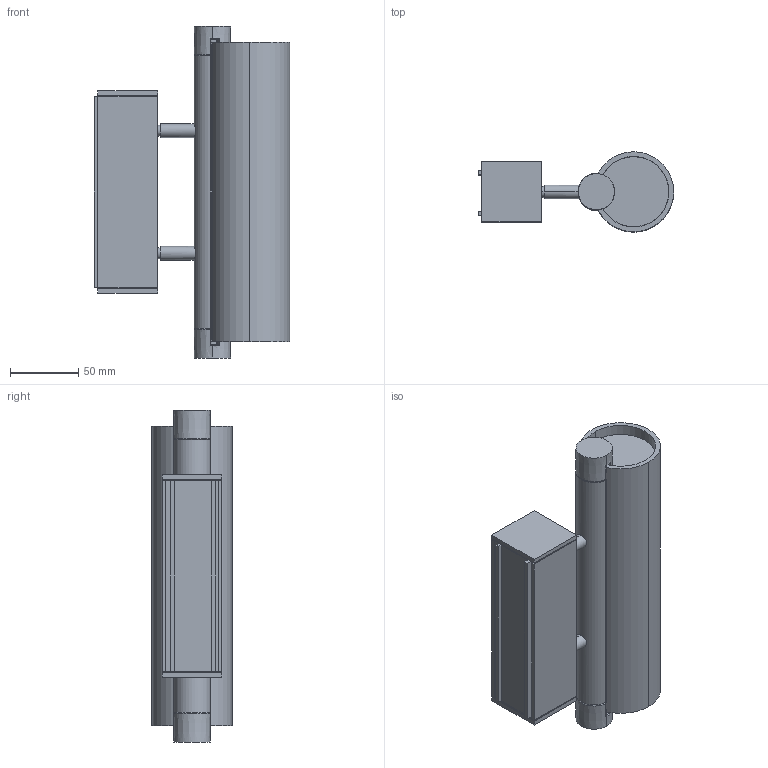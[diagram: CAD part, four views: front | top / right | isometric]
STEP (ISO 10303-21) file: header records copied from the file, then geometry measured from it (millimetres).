
FILE_DESCRIPTION (( 'STEP AP214' ), '1' );
FILE_NAME ('3D_NORMA_25.STEP', '2018-03-14T13:16:21', ( 'Utente' ), ( '' ), 'SwSTEP 2.0', 'SolidWorks 2016', '' );
FILE_SCHEMA (( 'AUTOMOTIVE_DESIGN' ));
Length unit declared in the file: millimetre
Products named in the file (3): 063NOR000120MARTIMA-1^3D_NORMA_25; Group1^3D_NORMA_25; 3D_NORMA_25
Assembly tree (2 placements, depth 2):
  3D_NORMA_25
    Group1^3D_NORMA_25
    063NOR000120MARTIMA-1^3D_NORMA_25
Bounding box: 143.62 x 58.8 x 244 mm (x, y, z)
Volume: 296871.1 mm3; surface area: 159147 mm2
Topology: 2 solids, 2 shells, 196 faces, 503 edges, 314 vertices
Faces by surface type: plane 84, cylinder 42, bspline 36, torus 22, cone 12
Entity records: 7454 total; most frequent: CARTESIAN_POINT 2520, ORIENTED_EDGE 998, DIRECTION 885, EDGE_CURVE 499, AXIS2_PLACEMENT_3D 337, VERTEX_POINT 314, VECTOR 211, LINE 211
